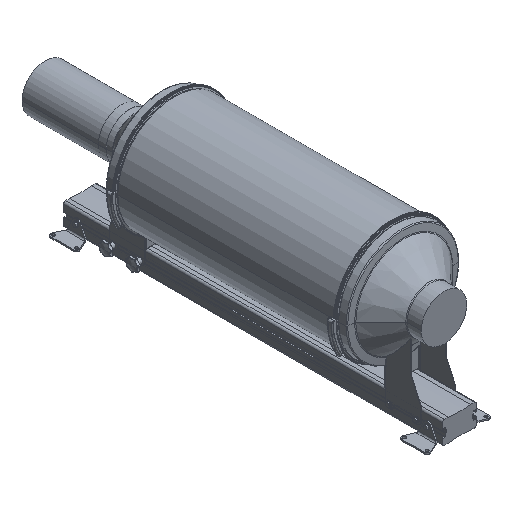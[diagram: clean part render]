
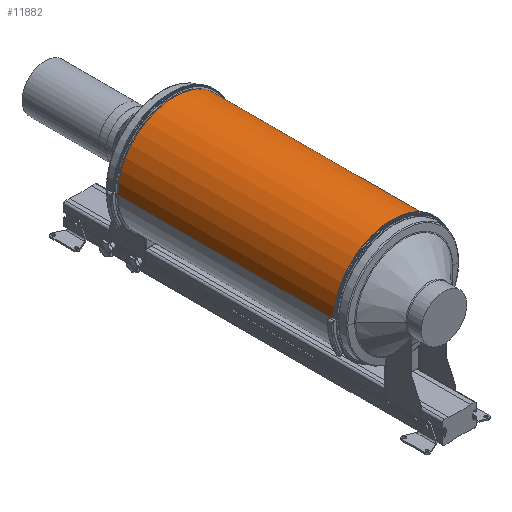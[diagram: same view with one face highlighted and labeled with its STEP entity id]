
A CAD part, isometric view. The second image highlights one B-rep face of the part: STEP entity #11882.
In plain terms, the highlighted cylindrical face has radius 201.75 mm (diameter 403.5 mm), a partial arc.
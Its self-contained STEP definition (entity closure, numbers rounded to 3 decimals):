
#11668=DIRECTION('',(0.,1.,0.));
#11669=VECTOR('',#11668,778.);
#11670=CARTESIAN_POINT('',(201.75,-779.,0.));
#11671=LINE('',#11670,#11669);
#11675=DIRECTION('',(0.,1.,0.));
#11676=VECTOR('',#11675,778.);
#11677=CARTESIAN_POINT('',(-201.75,-779.,0.));
#11678=LINE('',#11677,#11676);
#11682=CARTESIAN_POINT('',(0.,-779.,0.));
#11683=DIRECTION('',(0.,1.,0.));
#11684=DIRECTION('',(1.,0.,0.));
#11685=AXIS2_PLACEMENT_3D('',#11682,#11683,#11684);
#11706=CARTESIAN_POINT('',(0.,-1.,0.));
#11707=DIRECTION('',(0.,1.,0.));
#11708=DIRECTION('',(1.,0.,0.));
#11709=AXIS2_PLACEMENT_3D('',#11706,#11707,#11708);
#11764=CARTESIAN_POINT('',(201.75,-779.,0.));
#11765=CARTESIAN_POINT('',(201.75,-1.,0.));
#11766=VERTEX_POINT('',#11764);
#11767=VERTEX_POINT('',#11765);
#11776=CARTESIAN_POINT('',(-201.75,-779.,0.));
#11777=CARTESIAN_POINT('',(-201.75,-1.,0.));
#11778=VERTEX_POINT('',#11776);
#11779=VERTEX_POINT('',#11777);
#11868=CARTESIAN_POINT('',(0.,39.,0.));
#11869=DIRECTION('',(0.,-1.,0.));
#11870=DIRECTION('',(-1.,0.,0.));
#11871=AXIS2_PLACEMENT_3D('',#11868,#11869,#11870);
#11872=CYLINDRICAL_SURFACE('',#11871,201.75);
#11874=ORIENTED_EDGE('',*,*,#11873,.T.);
#11876=ORIENTED_EDGE('',*,*,#11875,.T.);
#11878=ORIENTED_EDGE('',*,*,#11877,.F.);
#11879=ORIENTED_EDGE('',*,*,#11854,.F.);
#11880=EDGE_LOOP('',(#11874,#11876,#11878,#11879));
#11881=FACE_OUTER_BOUND('',#11880,.F.);
#11686=CIRCLE('',#11685,201.75);
#11710=CIRCLE('',#11709,201.75);
#11854=EDGE_CURVE('',#11766,#11778,#11686,.T.);
#11873=EDGE_CURVE('',#11766,#11767,#11671,.T.);
#11875=EDGE_CURVE('',#11767,#11779,#11710,.T.);
#11877=EDGE_CURVE('',#11778,#11779,#11678,.T.);
#11882=ADVANCED_FACE('',(#11881),#11872,.T.);
